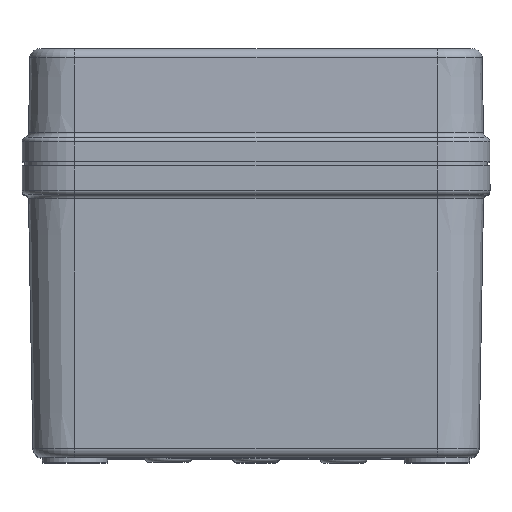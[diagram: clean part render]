
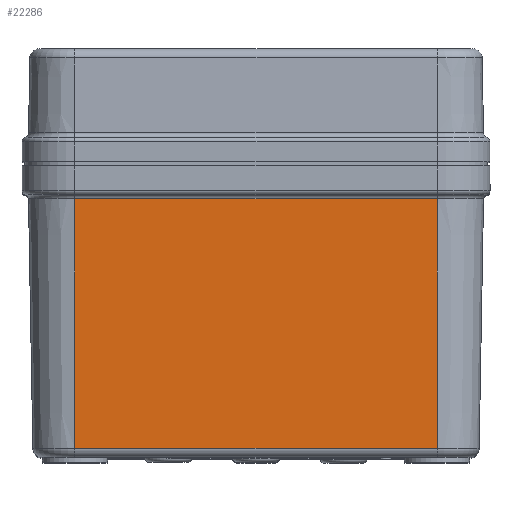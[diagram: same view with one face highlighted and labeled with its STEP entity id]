
A CAD part, top view. The second image highlights one B-rep face of the part: STEP entity #22286.
In plain terms, the highlighted planar face has unit normal (0, -0.018, 1) as drawn and (-1, 0, -0.017) by its records, which use the part's own axes.
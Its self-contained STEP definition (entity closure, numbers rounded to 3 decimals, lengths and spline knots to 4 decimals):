
#1236=FACE_OUTER_BOUND('',#2600,.T.);
#2600=EDGE_LOOP('',(#14945,#14946,#14947,#14948));
#4130=LINE('',#32103,#6341);
#4150=LINE('',#32186,#6361);
#4151=LINE('',#32189,#6362);
#4152=LINE('',#32190,#6363);
#6341=VECTOR('',#25824,2.441);
#6361=VECTOR('',#25932,1.6811);
#6362=VECTOR('',#25935,2.441);
#6363=VECTOR('',#25936,1.6811);
#9347=VERTEX_POINT('',#32096);
#9349=VERTEX_POINT('',#32102);
#9368=VERTEX_POINT('',#32184);
#9369=VERTEX_POINT('',#32188);
#11502=EDGE_CURVE('',#9349,#9347,#4130,.T.);
#11544=EDGE_CURVE('',#9347,#9368,#4150,.T.);
#11545=EDGE_CURVE('',#9369,#9368,#4151,.T.);
#11546=EDGE_CURVE('',#9349,#9369,#4152,.T.);
#14945=ORIENTED_EDGE('',*,*,#11502,.T.);
#14946=ORIENTED_EDGE('',*,*,#11544,.T.);
#14947=ORIENTED_EDGE('',*,*,#11545,.F.);
#14948=ORIENTED_EDGE('',*,*,#11546,.F.);
#21503=PLANE('',#23782);
#22286=ADVANCED_FACE('',(#1236),#21503,.T.);
#23782=AXIS2_PLACEMENT_3D('',#32187,#25933,#25934);
#25824=DIRECTION('',(0.,1.,0.));
#25932=DIRECTION('',(0.017,0.,-1.));
#25933=DIRECTION('center_axis',(-1.,0.,-0.017));
#25934=DIRECTION('ref_axis',(0.,-1.,0.));
#25935=DIRECTION('',(0.,1.,0.));
#25936=DIRECTION('',(0.017,0.,-1.));
#32096=CARTESIAN_POINT('',(-2.1241,1.2205,-0.2223));
#32102=CARTESIAN_POINT('',(-2.1241,-1.2205,-0.2223));
#32103=CARTESIAN_POINT('',(-2.1241,-1.2205,-0.2223));
#32184=CARTESIAN_POINT('',(-2.0948,1.2205,-1.9031));
#32186=CARTESIAN_POINT('',(-2.1241,1.2205,-0.2223));
#32187=CARTESIAN_POINT('Origin',(-2.128,-1.2913,0.));
#32188=CARTESIAN_POINT('',(-2.0948,-1.2205,-1.9031));
#32189=CARTESIAN_POINT('',(-2.0948,-1.2205,-1.9031));
#32190=CARTESIAN_POINT('',(-2.1241,-1.2205,-0.2223));
